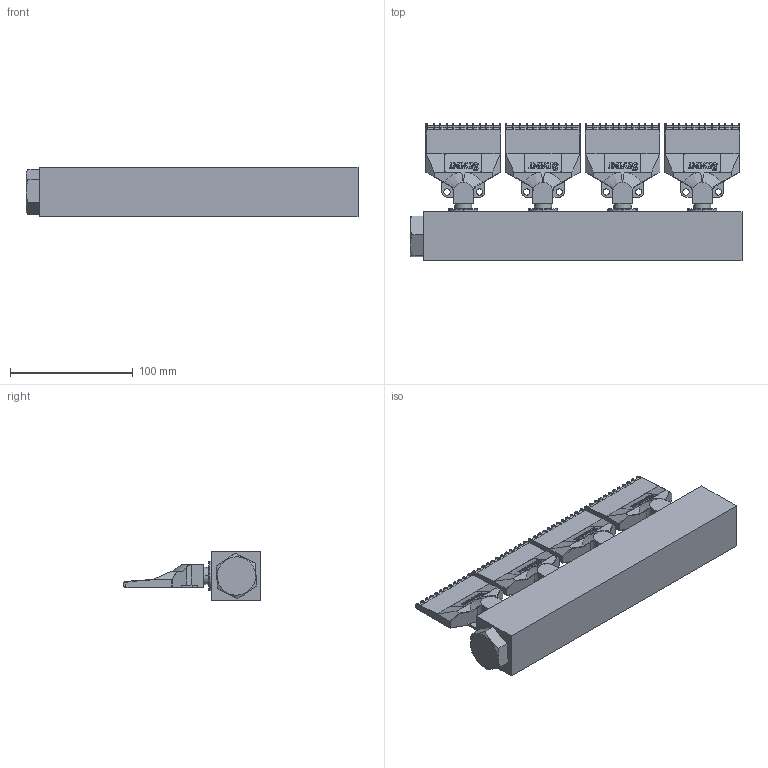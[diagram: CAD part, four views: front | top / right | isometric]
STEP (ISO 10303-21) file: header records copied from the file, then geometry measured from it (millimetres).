
FILE_DESCRIPTION (( 'STEP AP214' ), '1' );
FILE_NAME ('Silvent 374.STEP', '2010-10-15T13:23:38', ( ' ' ), ( '' ), 'SwSTEP 2.0', 'SolidWorks 2010', '' );
FILE_SCHEMA (( 'AUTOMOTIVE_DESIGN' ));
Length unit declared in the file: millimetre
Products named in the file (5): 90000000439_bricka_13x24; Profil 374; Plugg 370; Silvent 973; Silvent 374
Assembly tree (10 placements, depth 2):
  Silvent 374
    Silvent 973  x4
    90000000439_bricka_13x24  x4
    Plugg 370
    Profil 374
Bounding box: 271 x 112.5 x 40 mm (x, y, z)
Volume: 279863.5 mm3; surface area: 124982.3 mm2
Topology: 10 solids, 10 shells, 1304 faces, 3556 edges, 2296 vertices
Faces by surface type: plane 658, cylinder 528, bspline 40, torus 40, cone 22, sphere 16
Entity records: 12185 total; most frequent: CARTESIAN_POINT 2690, DIRECTION 1977, ORIENTED_EDGE 1926, EDGE_CURVE 963, AXIS2_PLACEMENT_3D 694, VERTEX_POINT 625, VECTOR 589, LINE 589
